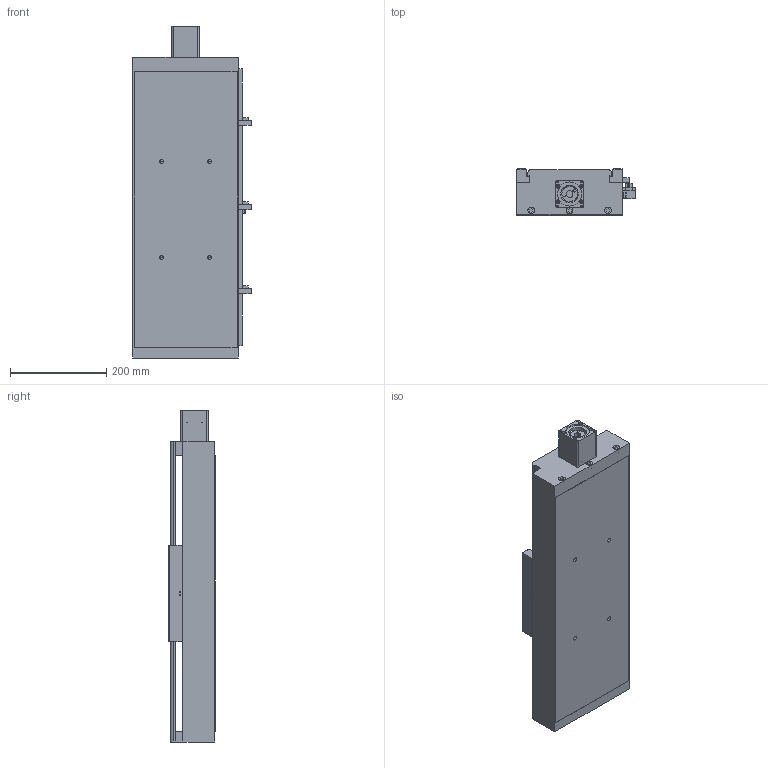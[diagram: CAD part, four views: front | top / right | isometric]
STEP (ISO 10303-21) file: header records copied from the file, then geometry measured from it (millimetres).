
FILE_DESCRIPTION((''),'2;1');
FILE_NAME('E:\libraries\UIA actuator library 2016\standard actuator\UIA220R20NDC\UIA220R20NDC ball screw 25\UIA220R20NDC-_ _ _-R25_ _ stp file, 01May16\UIA220R20NDC-350-R25_ _-M60-P13-C10-S.stp','2016-04-29T17:22:49',('h029'),(''),'Autodesk Inventor 11','Autodesk Inventor 11','');
FILE_SCHEMA(('AUTOMOTIVE_DESIGN { 1 0 10303 214 1 1 1 1 }'));
Length unit declared in the file: millimetre
Products named in the file (10): UIA220R20NDC-350-R25_ _; UIA220R20NDC-body; 41-100 0010 CARRIAGE; sensor rail; Sensor Switch; motor mount M60; SOH-32C; SOH-32C-3; SOH-32C-1; SOH-32C-2
Assembly tree (9 placements, depth 3):
  UIA220R20NDC-350-R25_ _
    UIA220R20NDC-body
    41-100 0010 CARRIAGE
    sensor rail
    Sensor Switch
    motor mount M60
    SOH-32C
      SOH-32C-3
      SOH-32C-1
      SOH-32C-2
Bounding box: 246.5 x 96 x 691 mm (x, y, z)
Volume: 4634380.4 mm3; surface area: 1009401 mm2
Topology: 8 solids, 8 shells, 499 faces, 1341 edges, 881 vertices
Faces by surface type: plane 342, bspline 109, cylinder 46, cone 2
Full cylindrical faces by diameter (mm): 3.242 x2, 4.5 x2, 7 x4, 7.5 x2, 13.8 x3, 14 x6, 17 x1, 32 x3, 37 x1, 50.3 x1, 50.5 x1
Entity records: 16306 total; most frequent: CARTESIAN_POINT 4537, ORIENTED_EDGE 2296, DIRECTION 2245, EDGE_CURVE 1148, VECTOR 849, LINE 849, VERTEX_POINT 807, EDGE_LOOP 709
